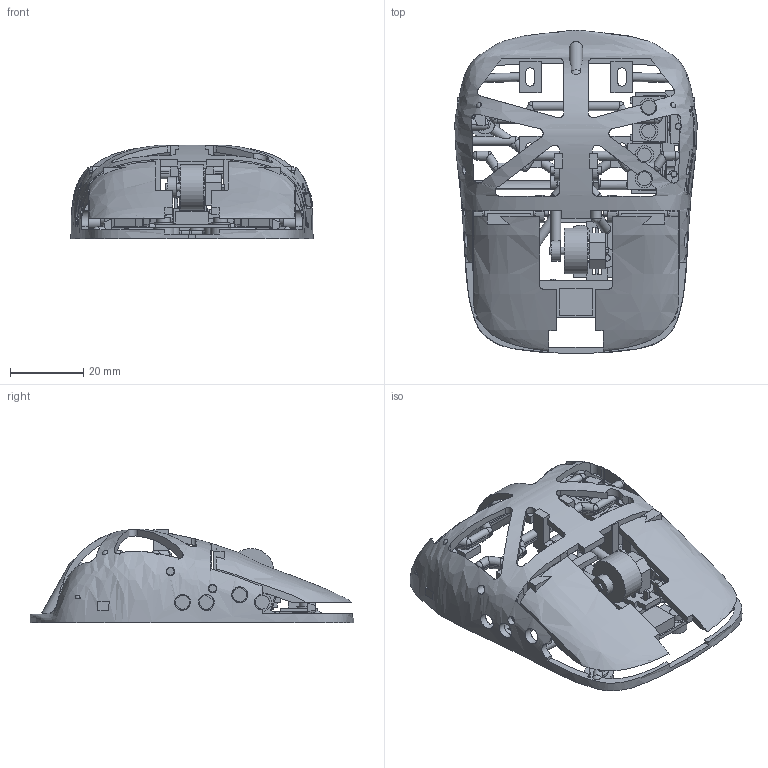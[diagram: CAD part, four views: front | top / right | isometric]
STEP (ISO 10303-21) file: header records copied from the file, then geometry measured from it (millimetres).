
FILE_DESCRIPTION(('Open CASCADE Model'),'2;1');
FILE_NAME('Open CASCADE Shape Model','2026-10-17T16:49:44',('Author'),( 'Open CASCADE'),'Open CASCADE STEP processor 7.9','Open CASCADE 7.9' ,'Unknown');
FILE_SCHEMA(('AUTOMOTIVE_DESIGN { 1 0 10303 214 1 1 1 1 }'));
Length unit declared in the file: millimetre
Products named in the file (73): Quietmirror_F1H; BODY; LEFT_KEY; RIGHT_KEY; SIDE_FRONT_KEY; SIDE_FRONT_KEY_SWITCH_CLAMP; SIDE_REAR_KEY; SIDE_REAR_KEY_SWITCH_CLAMP; WHEEL; WHEEL_CARRIER; LEFT_KEY_STEEL_PIN; LEFT_KEY_M2_SWITCH_1_BOLT; LEFT_KEY_M2_SWITCH_1_WASHER_NUT; LEFT_KEY_M2_SWITCH_1_WASHER_HEAD; LEFT_KEY_M2_SWITCH_1_NUT; LEFT_KEY_M2_SWITCH_2_BOLT; LEFT_KEY_M2_SWITCH_2_WASHER_NUT; LEFT_KEY_M2_SWITCH_2_WASHER_HEAD; LEFT_KEY_M2_SWITCH_2_NUT; SWITCH_LEFT; RIGHT_KEY_STEEL_PIN; RIGHT_KEY_M2_SWITCH_1_BOLT; RIGHT_KEY_M2_SWITCH_1_WASHER_NUT; RIGHT_KEY_M2_SWITCH_1_WASHER_HEAD; RIGHT_KEY_M2_SWITCH_1_NUT; RIGHT_KEY_M2_SWITCH_2_BOLT; RIGHT_KEY_M2_SWITCH_2_WASHER_NUT; RIGHT_KEY_M2_SWITCH_2_WASHER_HEAD; RIGHT_KEY_M2_SWITCH_2_NUT; SWITCH_RIGHT; SIDE_FRONT_KEY_CAPTURE_PIN; SIDE_FRONT_KEY_M2_SWITCH_1_BOLT; SIDE_FRONT_KEY_M2_SWITCH_1_WASHER_NUT; SIDE_FRONT_KEY_M2_SWITCH_1_WASHER_HEAD; SIDE_FRONT_KEY_M2_SWITCH_1_NUT; SIDE_FRONT_KEY_M2_SWITCH_2_BOLT; SIDE_FRONT_KEY_M2_SWITCH_2_WASHER_NUT; SIDE_FRONT_KEY_M2_SWITCH_2_WASHER_HEAD; SIDE_FRONT_KEY_M2_SWITCH_2_NUT; SWITCH_SIDE_FRONT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
Assembly tree (72 placements, depth 2):
  Quietmirror_F1H
    BODY
    LEFT_KEY
    RIGHT_KEY
    SIDE_FRONT_KEY
    SIDE_FRONT_KEY_SWITCH_CLAMP
    SIDE_REAR_KEY
    SIDE_REAR_KEY_SWITCH_CLAMP
    WHEEL
    WHEEL_CARRIER
    LEFT_KEY_STEEL_PIN
    LEFT_KEY_M2_SWITCH_1_BOLT
    LEFT_KEY_M2_SWITCH_1_WASHER_NUT
    LEFT_KEY_M2_SWITCH_1_WASHER_HEAD
    LEFT_KEY_M2_SWITCH_1_NUT
    LEFT_KEY_M2_SWITCH_2_BOLT
    LEFT_KEY_M2_SWITCH_2_WASHER_NUT
    LEFT_KEY_M2_SWITCH_2_WASHER_HEAD
    LEFT_KEY_M2_SWITCH_2_NUT
    SWITCH_LEFT
    RIGHT_KEY_STEEL_PIN
    RIGHT_KEY_M2_SWITCH_1_BOLT
    RIGHT_KEY_M2_SWITCH_1_WASHER_NUT
    RIGHT_KEY_M2_SWITCH_1_WASHER_HEAD
    RIGHT_KEY_M2_SWITCH_1_NUT
    RIGHT_KEY_M2_SWITCH_2_BOLT
    RIGHT_KEY_M2_SWITCH_2_WASHER_NUT
    RIGHT_KEY_M2_SWITCH_2_WASHER_HEAD
    RIGHT_KEY_M2_SWITCH_2_NUT
    SWITCH_RIGHT
    SIDE_FRONT_KEY_CAPTURE_PIN
    SIDE_FRONT_KEY_M2_SWITCH_1_BOLT
    SIDE_FRONT_KEY_M2_SWITCH_1_WASHER_NUT
    SIDE_FRONT_KEY_M2_SWITCH_1_WASHER_HEAD
    SIDE_FRONT_KEY_M2_SWITCH_1_NUT
    SIDE_FRONT_KEY_M2_SWITCH_2_BOLT
    SIDE_FRONT_KEY_M2_SWITCH_2_WASHER_NUT
    SIDE_FRONT_KEY_M2_SWITCH_2_WASHER_HEAD
    SIDE_FRONT_KEY_M2_SWITCH_2_NUT
    SWITCH_SIDE_FRONT
    SIDE_REAR_KEY_CAPTURE_PIN
    SIDE_REAR_KEY_M2_SWITCH_1_BOLT
    SIDE_REAR_KEY_M2_SWITCH_1_WASHER_NUT
    SIDE_REAR_KEY_M2_SWITCH_1_WASHER_HEAD
    SIDE_REAR_KEY_M2_SWITCH_1_NUT
    SIDE_REAR_KEY_M2_SWITCH_2_BOLT
    SIDE_REAR_KEY_M2_SWITCH_2_WASHER_NUT
    SIDE_REAR_KEY_M2_SWITCH_2_WASHER_HEAD
    SIDE_REAR_KEY_M2_SWITCH_2_NUT
    SWITCH_SIDE_REAR
    ENCODER_EC10E_HOUSING
    ENCODER_EC10E_ROTOR
    WHEEL_CARRIER_STEEL_PIN
    SWITCH_MIDDLE
    WHEEL_M2_SWITCH_1_BOLT
    WHEEL_M2_SWITCH_1_WASHER_NUT
    WHEEL_M2_SWITCH_1_WASHER_HEAD
    WHEEL_M2_SWITCH_1_NUT
    WHEEL_M2_SWITCH_2_BOLT
    WHEEL_M2_SWITCH_2_WASHER_NUT
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Bounding box: 66.07 x 88.24 x 25.47 mm (x, y, z)
Volume: 23732.1 mm3; surface area: 33246.8 mm2
Topology: 72 solids, 72 shells, 1814 faces, 4838 edges, 3132 vertices
Faces by surface type: plane 1233, cylinder 439, sphere 100, bspline 42
Full cylindrical faces by diameter (mm): 1.25 x6, 1.5 x2, 1.7 x6, 1.72 x3, 2 x40, 2.2 x24, 2.3 x2, 2.35 x14, 2.4 x28, 2.5 x3, 2.6 x11, 2.7 x7, 2.98 x1, 3.2 x3, 3.8 x14, 4.2 x2, 4.3 x3, 5 x22, 5.2 x4, 5.3 x2, 12.5 x1
Entity records: 398396 total; most frequent: CARTESIAN_POINT 305398, DIRECTION 15801, ORIENTED_EDGE 9592, PCURVE 9592, DEFINITIONAL_REPRESENTATION 9592, LINE 9156, VECTOR 9156, EDGE_CURVE 4796
